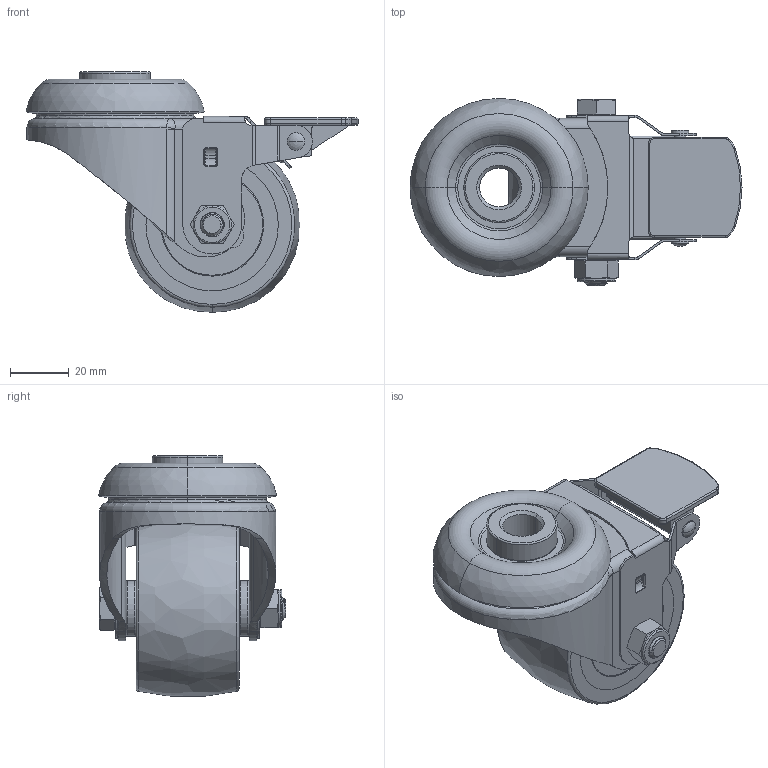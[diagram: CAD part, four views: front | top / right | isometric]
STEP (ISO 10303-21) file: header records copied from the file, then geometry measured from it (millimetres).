
FILE_DESCRIPTION((''),'2;1');
FILE_NAME('ASM0001_ASM','2022-05-17T18:04:49',('Administrator'),(''),'CREO PARAMETRIC BY PTC INC, 2018050','CREO PARAMETRIC BY PTC INC, 2018050','');
FILE_SCHEMA(('CONFIG_CONTROL_DESIGN'));
Length unit declared in the file: millimetre
Products named in the file (9): 320415-11; 500813; 500813-01; 500036; 500814; 500814-M8-55; 500159_M8; 331054_ASM; ASM0001_ASM
Assembly tree (10 placements, depth 3):
  ASM0001_ASM
    320415-11
    331054_ASM
      500813
      500813-01
      500036  x2
      500814  x2
      500814-M8-55
      500159_M8
Bounding box: 112.89 x 63.6 x 81.79 mm (x, y, z)
Volume: 140659.7 mm3; surface area: 70105.9 mm2
Topology: 10 solids, 11 shells, 531 faces, 1295 edges, 806 vertices
Faces by surface type: cylinder 203, plane 129, torus 96, bspline 65, cone 36, sphere 2
Entity records: 21855 total; most frequent: CARTESIAN_POINT 10059, ORIENTED_EDGE 2466, DIRECTION 2397, EDGE_CURVE 1233, AXIS2_PLACEMENT_3D 970, VERTEX_POINT 772, EDGE_LOOP 555, CIRCLE 506
